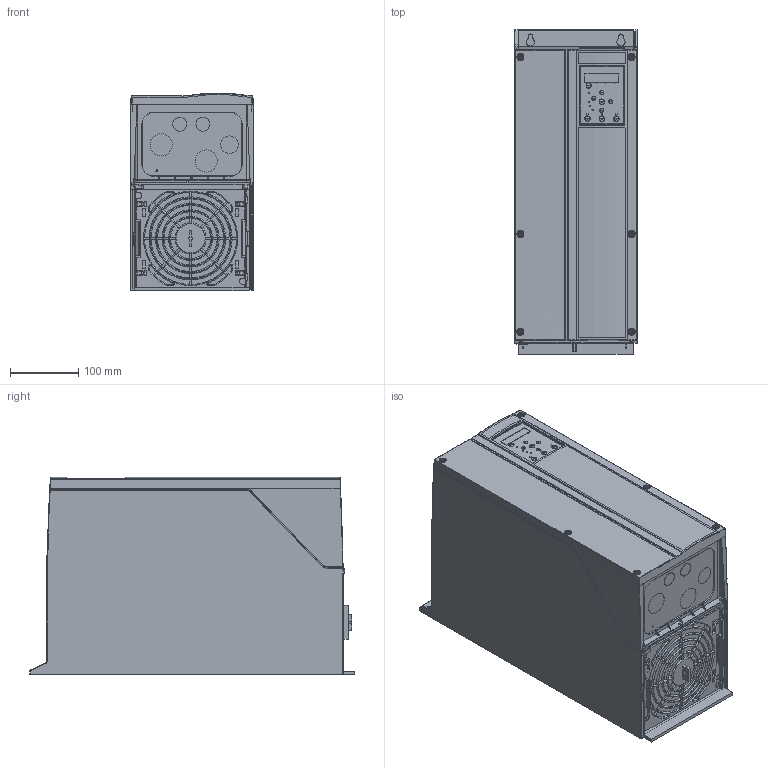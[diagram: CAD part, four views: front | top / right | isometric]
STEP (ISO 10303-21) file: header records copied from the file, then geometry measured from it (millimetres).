
FILE_DESCRIPTION((''),'2;1');
FILE_NAME('IP54-I4_ASM','2013-05-23T',('U243993'),('Danfoss Power Electronics'),'PRO/ENGINEER BY PARAMETRIC TECHNOLOGY CORPORATION, 2011490','PRO/ENGINEER BY PARAMETRIC TECHNOLOGY CORPORATION, 2011490','');
FILE_SCHEMA(('CONFIG_CONTROL_DESIGN', 'GEOMETRIC_VALIDATION_PROPERTIES_MIM'));
Products named in the file (21): 132B4153; 132B4186; 132B4144; 132B9105_ASM_ASM; I4-WIRE-ENTRY-HOLDER; 132B3475; 132B4230_ASM_ASM; 132B4156; 132B4159; 132B4237; 132B4192; 132B3529; 681Z1143; 132B4236_ASM_ASM; 132B4162; 132B3469; 132B3528_ASM_ASM; 132B3316-1; 132B4254; I4-IP54_ASM_ASM; IP54-I4_ASM
Assembly tree (28 placements, depth 4):
  IP54-I4_ASM
    I4-IP54_ASM_ASM
      132B4153
      132B4186
      132B9105_ASM_ASM
        132B4144
      132B4230_ASM_ASM
        I4-WIRE-ENTRY-HOLDER
        132B3475
      132B4156
      132B4236_ASM_ASM
        132B4159
        132B4237  x2
        132B4192
        132B3529  x2
        681Z1143  x2
      132B4162
      132B3528_ASM_ASM
        132B3469
      132B3316-1  x6
      132B4254
Bounding box: 180 x 476 x 289.98 mm (x, y, z)
Volume: 2713155 mm3; surface area: 1251368 mm2
Topology: 31 solids, 31 shells, 4025 faces, 11117 edges, 7097 vertices
Faces by surface type: plane 2271, cylinder 859, cone 340, torus 337, bspline 123, sphere 81, extrusion 14
Entity records: 150141 total; most frequent: CARTESIAN_POINT 48346, ORIENTED_EDGE 19494, DIRECTION 17050, EDGE_CURVE 9747, VERTEX_POINT 6246, VECTOR 5840, LINE 5826, AXIS2_PLACEMENT_3D 5605
